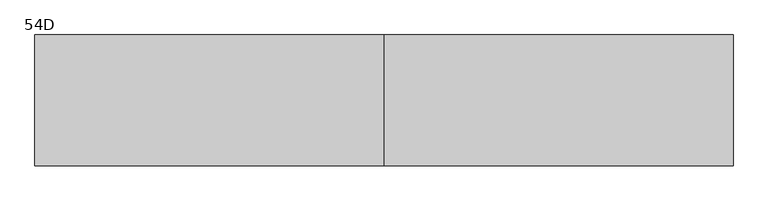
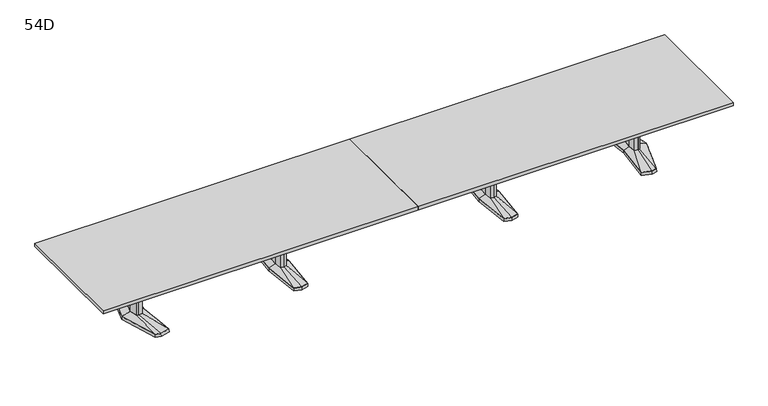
"""IFC4 building model written with IfcOpenShell, lengths in millimetres: furniture geometry, Coalesse_AM_Table_Conference_ETable2_Rectangular_24ft_AluminiumBase : 54D."""

import ifcopenshell
import ifcopenshell.guid

model = None  # the IFC model being written
_history = None  # IfcOwnerHistory: only IFC2X3 demands one
_inside = {}  # id of a spatial element -> (the spatial element, [elements in it])
_under = {}  # id of a project, library or spatial element -> (it, [spatial elements below it])
_declared = {}  # id of a project -> (the project, [libraries it declares])
_typed = {}  # id of a type object -> (the type object, [elements of that type])
_made_of = {}  # id of a material, layer set ... -> (it, [elements and type objects made of it])


def new_model(schema):
    """Start an empty IFC model of exactly this schema.

    Asked for "IFC4X3", IfcOpenShell would pick the latest addendum, in which some entities
    have other attributes; the version numbers below select the first issue.
    IFC2X3 requires an IfcOwnerHistory on every rooted entity: one is made here for all.
    """
    global model, _history
    if schema == "IFC4X3":
        model = ifcopenshell.file(schema_version=(4, 3, 0, 0))
    else:
        model = ifcopenshell.file(schema=schema)
    _inside.clear()
    _under.clear()
    _declared.clear()
    _typed.clear()
    _made_of.clear()
    _history = None
    if model.schema == "IFC2X3":
        org = make("IfcOrganization", Name="unknown")
        user = make(
            "IfcPersonAndOrganization",
            ThePerson=make("IfcPerson", FamilyName="unknown"),
            TheOrganization=org,
        )
        app = make(
            "IfcApplication",
            ApplicationDeveloper=org,
            Version="unknown",
            ApplicationFullName="unknown",
            ApplicationIdentifier="unknown",
        )
        _history = make(
            "IfcOwnerHistory",
            OwningUser=user,
            OwningApplication=app,
            ChangeAction="ADDED",
            CreationDate=0,
        )
    return model


def make(cls, **values):
    """One entity of the class cls with the attributes given. An attribute that is None is left unset."""
    return model.create_entity(
        cls, **{name: value for name, value in values.items() if value is not None}
    )


def rooted(cls, **values):
    """An entity with a GlobalId (a new one), such as an element, a storey or a relation."""
    return make(cls, GlobalId=ifcopenshell.guid.new(), OwnerHistory=_history, **values)


def si_unit(unit_type, name, prefix=None):
    """IfcSIUnit, for example si_unit("LENGTHUNIT", "METRE", prefix="MILLI")."""
    return make("IfcSIUnit", UnitType=unit_type, Prefix=prefix, Name=name)


def assignment(units):
    """IfcUnitAssignment: the units of a project."""
    return None if units is None else make("IfcUnitAssignment", Units=units)


def point(xyz):
    """IfcCartesianPoint."""
    return None if xyz is None else make("IfcCartesianPoint", Coordinates=xyz)


def direction(xyz):
    """IfcDirection."""
    return None if xyz is None else make("IfcDirection", DirectionRatios=xyz)


def frame(location, z_axis=None, x_axis=None):
    """IfcAxis2Placement3D, a coordinate frame: its origin and axes. An axis left out is left unset."""
    return make(
        "IfcAxis2Placement3D",
        Location=point(location),
        Axis=direction(z_axis),
        RefDirection=direction(x_axis),
    )


def origin():
    """The frame at (0, 0, 0) with its axes left unset."""
    return frame((0.0, 0.0, 0.0))


def place(relative_to, where):
    """IfcLocalPlacement: puts the frame where relative to a parent placement (None: the world)."""
    return make(
        "IfcLocalPlacement", PlacementRelTo=relative_to, RelativePlacement=where
    )


def context(
    kind, dimensions, precision=None, world=None, true_north=None, identifier=None
):
    """IfcGeometricRepresentationContext, for example the 3D "Model" context."""
    return make(
        "IfcGeometricRepresentationContext",
        ContextIdentifier=identifier,
        ContextType=kind,
        CoordinateSpaceDimension=dimensions,
        Precision=precision,
        WorldCoordinateSystem=world,
        TrueNorth=true_north,
    )


def project(units=None, contexts=None):
    """IfcProject with its units and contexts."""
    return rooted(
        "IfcProject",
        Name="project",
        RepresentationContexts=contexts,
        UnitsInContext=assignment(units),
    )


def spatial(cls, under=None, at=None, **own):
    """A site, building, storey or space (cls), placed at a placement, below another one or the project."""
    s = rooted(cls, ObjectPlacement=at, **own)
    if under is not None:
        _under.setdefault(under.id(), (under, []))[1].append(s)
    return s


def polyline(points):
    """IfcPolyline through the points."""
    return make("IfcPolyline", Points=[point(p) for p in points])


def outline(outer, holes=None, kind="AREA"):
    """IfcArbitraryClosedProfileDef: a profile drawn as a closed curve; with holes, ...WithVoids."""
    if holes is None:
        return make("IfcArbitraryClosedProfileDef", ProfileType=kind, OuterCurve=outer)
    return make(
        "IfcArbitraryProfileDefWithVoids",
        ProfileType=kind,
        OuterCurve=outer,
        InnerCurves=holes,
    )


def extrude(swept, where, along, depth):
    """IfcExtrudedAreaSolid: the profile swept, set in the frame where, extruded along a direction by depth."""
    return make(
        "IfcExtrudedAreaSolid",
        SweptArea=swept,
        Position=where,
        ExtrudedDirection=direction(along),
        Depth=depth,
    )


def faces_of(points, faces, orient=None, outer=None):
    """IfcFace entities. A face is a list of loops; a loop is a list of indices into points, from 0.

    orient and outer hold one flag for each loop. By default every Orientation is true, the
    first loop of a face is its IfcFaceOuterBound and the others are IfcFaceBound.
    """
    made = []
    for i, loops in enumerate(faces):
        bounds = []
        for j, loop in enumerate(loops):
            is_outer = j == 0 if outer is None else outer[i][j]
            bounds.append(
                make(
                    "IfcFaceOuterBound" if is_outer else "IfcFaceBound",
                    Bound=make("IfcPolyLoop", Polygon=[points[k] for k in loop]),
                    Orientation=True if orient is None else orient[i][j],
                )
            )
        made.append(make("IfcFace", Bounds=bounds))
    return made


def faceted_brep(points, faces, orient=None, outer=None, voids=None):
    """IfcFacetedBrep: a solid bounded by flat faces; with voids (closed shells), ...WithVoids."""
    shared = [point(p) for p in points]
    hull = make("IfcClosedShell", CfsFaces=faces_of(shared, faces, orient, outer))
    if voids is None:
        return make("IfcFacetedBrep", Outer=hull)
    return make(
        "IfcFacetedBrepWithVoids",
        Outer=hull,
        Voids=[
            make(cls, CfsFaces=faces_of(shared, fs, o, b)) for cls, fs, o, b in voids
        ],
    )


def shape(context_of_items, identifier, shape_type, items):
    """IfcShapeRepresentation: the items that make up one representation, for example the "Body"."""
    return make(
        "IfcShapeRepresentation",
        ContextOfItems=context_of_items,
        RepresentationIdentifier=identifier,
        RepresentationType=shape_type,
        Items=items,
    )


def source(mapping_origin, context_of_items, identifier, shape_type, items):
    """IfcRepresentationMap: a shape defined once, which mapped items show again and again."""
    return make(
        "IfcRepresentationMap",
        MappingOrigin=mapping_origin,
        MappedRepresentation=shape(context_of_items, identifier, shape_type, items),
    )


def transform(
    local_origin,
    x_axis=None,
    y_axis=None,
    z_axis=None,
    scale=None,
    scale2=None,
    scale3=None,
    uniform=True,
):
    """IfcCartesianTransformationOperator3D, or its non-uniform kind. x_axis, y_axis, z_axis: its Axis1, 2, 3."""
    if uniform:
        return make(
            "IfcCartesianTransformationOperator3D",
            Axis1=direction(x_axis),
            Axis2=direction(y_axis),
            LocalOrigin=point(local_origin),
            Scale=scale,
            Axis3=direction(z_axis),
        )
    return make(
        "IfcCartesianTransformationOperator3DnonUniform",
        Axis1=direction(x_axis),
        Axis2=direction(y_axis),
        LocalOrigin=point(local_origin),
        Scale=scale,
        Axis3=direction(z_axis),
        Scale2=scale2,
        Scale3=scale3,
    )


def mapped(mapping_source, mapping_target):
    """IfcMappedItem: shows the shape of a source again, moved by a transform."""
    return make(
        "IfcMappedItem", MappingSource=mapping_source, MappingTarget=mapping_target
    )


def made_of(thing, what):
    """Note that an element or type object is made of a material, layer set ...; save() writes the relation."""
    if what is not None:
        _made_of.setdefault(what.id(), (what, []))[1].append(thing)
    return thing


def element(
    cls,
    number,
    at=None,
    inside=None,
    cuts=None,
    type_object=None,
    material=None,
    context=None,
    identifier="Body",
    shape_type=None,
    held_by="IfcProductDefinitionShape",
    body=None,
    shapes=None,
    **own,
):
    """One element of the class cls, such as IfcWall. Its Tag is "e" and its number.

    at: its placement. inside: the storey or other place that contains it. cuts: it is an
    opening in that element (IfcRelVoidsElement). A single representation is given by context,
    identifier, shape_type and body (its items); several are given by shapes. held_by: the class
    of the entity that holds the representations. save() writes the other relations.
    """
    e = rooted(cls, Tag="e%d" % number, ObjectPlacement=at, **own)
    if body is not None:
        shapes = [shape(context, identifier, shape_type, body)]
    if shapes is not None:
        e.Representation = make(held_by, Representations=shapes)
    if inside is not None:
        _inside.setdefault(inside.id(), (inside, []))[1].append(e)
    if cuts is not None:
        rooted(
            "IfcRelVoidsElement", RelatingBuildingElement=cuts, RelatedOpeningElement=e
        )
    if type_object is not None:
        _typed.setdefault(type_object.id(), (type_object, []))[1].append(e)
    return made_of(e, material)


def aggregate(whole, parts):
    """IfcRelAggregates: a whole, such as a stair, and the parts it consists of."""
    return rooted("IfcRelAggregates", RelatingObject=whole, RelatedObjects=parts)


def save(model, path):
    """Write the relations noted so far, then the file.

    IfcRelAggregates (storeys below a building ...), IfcRelContainedInSpatialStructure (elements
    in a storey), IfcRelDefinesByType, IfcRelAssociatesMaterial and IfcRelDeclares: one each for
    every whole, place, type object, material and project.
    """
    for whole, parts in _under.values():
        aggregate(whole, parts)
    for where, things in _inside.values():
        rooted(
            "IfcRelContainedInSpatialStructure",
            RelatedElements=things,
            RelatingStructure=where,
        )
    for kind, things in _typed.values():
        rooted("IfcRelDefinesByType", RelatedObjects=things, RelatingType=kind)
    for what, things in _made_of.values():
        rooted("IfcRelAssociatesMaterial", RelatedObjects=things, RelatingMaterial=what)
    for by, libraries in _declared.values():
        rooted("IfcRelDeclares", RelatingContext=by, RelatedDefinitions=libraries)
    model.write(path)


def plane_surface(at):
    """IfcPlane: the flat surface through the origin of the frame at, square to its z axis."""
    return make("IfcPlane", Position=at)


def spline_surface(u_degree, v_degree, points, u_multiplicities, v_multiplicities, u_knots, v_knots, weights=None):
    """IfcBSplineSurfaceWithKnots; with weights, IfcRationalBSplineSurfaceWithKnots. points: one row for each step in u."""
    own = dict(
        UDegree=u_degree,
        VDegree=v_degree,
        ControlPointsList=[[point(p) for p in row] for row in points],
        SurfaceForm="UNSPECIFIED",
        UClosed=False,
        VClosed=False,
        SelfIntersect=False,
        UMultiplicities=u_multiplicities,
        VMultiplicities=v_multiplicities,
        UKnots=u_knots,
        VKnots=v_knots,
        KnotSpec="UNSPECIFIED",
    )
    if weights is None:
        return make("IfcBSplineSurfaceWithKnots", **own)
    return make("IfcRationalBSplineSurfaceWithKnots", WeightsData=weights, **own)


def advanced_brep(points, edges, surfaces, faces):
    """IfcAdvancedBrep: a solid bounded by faces that lie on surfaces and meet in shared edges.

    An edge is (start, end): straight between two places in points (the first is 0);
    or (start, end, curve); or (start, end, curve, False) where it runs against its curve.
    A face is (place in surfaces, loops), or (place, loops, False) where it looks against
    its surface's normal. A loop lists edges by number (the first is 1), with a minus sign
    where the edge is run from its end to its start. The first loop is the outer one.
    """
    corners = [point(p) for p in points]
    vertices = [make("IfcVertexPoint", VertexGeometry=c) for c in corners]
    made = []
    for start, end, *more in edges:
        made.append(
            make(
                "IfcEdgeCurve",
                EdgeStart=vertices[start],
                EdgeEnd=vertices[end],
                EdgeGeometry=more[0] if more else make("IfcPolyline", Points=[corners[start], corners[end]]),
                SameSense=more[1] if len(more) > 1 else True,
            )
        )
    hull = []
    for where, loops, *sense in faces:
        bounds = []
        for j, loop in enumerate(loops):
            ring = [make("IfcOrientedEdge", EdgeElement=made[abs(k) - 1], Orientation=k > 0) for k in loop]
            bounds.append(
                make(
                    "IfcFaceOuterBound" if j == 0 else "IfcFaceBound",
                    Bound=make("IfcEdgeLoop", EdgeList=ring),
                    Orientation=True,
                )
            )
        hull.append(make("IfcAdvancedFace", Bounds=bounds, FaceSurface=surfaces[where], SameSense=sense[0] if sense else True))
    return make("IfcAdvancedBrep", Outer=make("IfcClosedShell", CfsFaces=hull))


def furniture_54d_3a0905d3(model_context):
    return source(origin(), model_context, "Body", "SolidModel", [
        faceted_brep([(1137.9666209, -433.8053819, 38.1), (1219.2, -455.556576, 38.1), (1300.4333791, -433.8053819, 38.1), (1338.2564774, 0.0, 38.1), (1300.4333791, 433.8053819, 38.1), (1219.2, 455.556576, 38.1), (1137.9666209, 433.8053819, 38.1), (1100.1435226, 0.0, 38.1), (1136.4817205, -435.0512063, 3.175), (1098.55, 0.0, 3.175), (1136.4817205, 435.0512063, 3.175), (1219.2, 457.2, 3.175), (1301.9182795, 435.0512063, 3.175), (1339.85, 0.0, 3.175), (1301.9182795, -435.0512063, 3.175), (1219.2, -457.2, 3.175), (1219.2, 429.2617927, 3.175), (1141.2323194, 408.3850278, 3.175), (1144.4980179, 382.9646737, 3.175), (1219.2, 402.9670094, 3.175), (1293.9019821, 382.9646737, 3.175), (1297.1676806, 408.3850278, 3.175), (1219.2, -429.2617927, 3.175), (1297.1676806, -408.3850278, 3.175), (1293.9019821, -382.9646737, 3.175), (1219.2, -402.9670094, 3.175), (1144.4980179, -382.9646737, 3.175), (1141.2323194, -408.3850278, 3.175), (1147.3425738, 114.6326257, 3.175), (1136.6573924, 0.0, 3.175), (1147.3425738, -114.6326257, 3.175), (1219.2, -133.8761372, 3.175), (1291.0574262, -114.6326257, 3.175), (1301.7426076, 0.0, 3.175), (1291.0574262, 114.6326257, 3.175), (1219.2, 133.8761372, 3.175), (1219.2, 429.2617927, 0.0), (1297.1676806, 408.3850278, 0.0), (1293.9019821, 382.9646737, 0.0), (1219.2, 402.9670094, 0.0), (1144.4980179, 382.9646737, 0.0), (1141.2323194, 408.3850278, 0.0), (1219.2, -429.2617927, 0.0), (1141.2323194, -408.3850278, 0.0), (1144.4980179, -382.9646737, 0.0), (1219.2, -402.9670094, 0.0), (1293.9019821, -382.9646737, 0.0), (1297.1676806, -408.3850278, 0.0), (1147.3425738, 114.6326257, 0.0), (1219.2, 133.8761372, 0.0), (1291.0574262, 114.6326257, 0.0), (1301.7426076, 0.0, 0.0), (1291.0574262, -114.6326257, 0.0), (1219.2, -133.8761372, 0.0), (1147.3425738, -114.6326257, 0.0), (1136.6573924, 0.0, 0.0)], [[[0, 1, 2, 3, 4, 5, 6, 7]], [[8, 9, 10, 11, 12, 13, 14, 15], [16, 17, 18, 19, 20, 21], [22, 23, 24, 25, 26, 27], [28, 29, 30, 31, 32, 33, 34, 35]], [[1, 0, 8, 15]], [[2, 1, 15, 14]], [[3, 2, 14, 13]], [[4, 3, 13, 12]], [[5, 4, 12, 11]], [[6, 5, 11, 10]], [[7, 6, 10, 9]], [[0, 7, 9, 8]], [[36, 37, 38, 39, 40, 41]], [[42, 43, 44, 45, 46, 47]], [[48, 49, 50, 51, 52, 53, 54, 55]], [[36, 41, 17, 16]], [[41, 40, 18, 17]], [[40, 39, 19, 18]], [[39, 38, 20, 19]], [[38, 37, 21, 20]], [[37, 36, 16, 21]], [[42, 47, 23, 22]], [[47, 46, 24, 23]], [[46, 45, 25, 24]], [[45, 44, 26, 25]], [[44, 43, 27, 26]], [[43, 42, 22, 27]], [[48, 55, 29, 28]], [[55, 54, 30, 29]], [[54, 53, 31, 30]], [[53, 52, 32, 31]], [[52, 51, 33, 32]], [[51, 50, 34, 33]], [[50, 49, 35, 34]], [[49, 48, 28, 35]]]),
        faceted_brep([(1182.8167166, 84.6900825, 698.5), (1174.9225513, 0.0, 698.5), (1182.8167166, -84.6900825, 698.5), (1219.2, -94.4335728, 698.5), (1255.5832834, -84.6900825, 698.5), (1263.4774487, 0.0, 698.5), (1255.5832834, 84.6900825, 698.5), (1219.2, 94.4335728, 698.5), (1182.8167166, 84.6900825, 63.5), (1219.2, 94.4335728, 63.5), (1255.5832834, 84.6900825, 63.5), (1263.4774487, 0.0, 63.5), (1255.5832834, -84.6900825, 63.5), (1219.2, -94.4335728, 63.5), (1182.8167166, -84.6900825, 63.5), (1174.9225513, 0.0, 63.5)], [[[0, 1, 2, 3, 4, 5, 6, 7]], [[8, 9, 10, 11, 12, 13, 14, 15]], [[1, 0, 8, 15]], [[2, 1, 15, 14]], [[3, 2, 14, 13]], [[4, 3, 13, 12]], [[5, 4, 12, 11]], [[6, 5, 11, 10]], [[7, 6, 10, 9]], [[0, 7, 9, 8]]]),
        advanced_brep(
        [(1182.8167166, 84.6900825, 63.5), (1174.9225513, 0.0, 63.5), (1182.8167166, -84.6900825, 63.5), (1219.2, -94.4335728, 63.5), (1255.5832834, -84.6900825, 63.5), (1263.4774487, 0.0, 63.5), (1255.5832834, 84.6900825, 63.5), (1219.2, 94.4335728, 63.5), (1137.9666209, 433.8053819, 38.1), (1219.2, 455.556576, 38.1), (1300.4333791, 433.8053819, 38.1), (1338.2564774, 0.0, 38.1), (1300.4333791, -433.8053819, 38.1), (1219.2, -455.556576, 38.1), (1137.9666209, -433.8053819, 38.1), (1100.1435226, 0.0, 38.1)],
        [
            (0, 1),
            (1, 2),
            (2, 3),
            (3, 4),
            (4, 5),
            (5, 6),
            (6, 7),
            (7, 0),
            (8, 9),
            (9, 10),
            (10, 11),
            (11, 12),
            (12, 13),
            (13, 14),
            (14, 15),
            (15, 8),
            (15, 1),
            (0, 8),
            (14, 2),
            (13, 3),
            (12, 4),
            (11, 5),
            (10, 6),
            (9, 7),
        ],
        [
            plane_surface(frame((1219.2, 0.0, 63.5), z_axis=(0.0, 0.0, 1.0000000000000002), x_axis=(-0.9659615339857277, -0.25868574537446, 0.0))),
            plane_surface(frame((1219.2, 0.0, 38.1), z_axis=(0.0, 0.0, -1.0000000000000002), x_axis=(-0.9659615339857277, -0.25868574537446, 0.0))),
            spline_surface(1, 1, [[(1137.9666209, 433.8053819, 38.1), (1182.8167166, 84.6900825, 63.5)], [(1100.1435226, 0.0, 38.1), (1174.9225513, 0.0, 63.5)]], [2, 2], [2, 2], [0.0, 1.0], [0.0, 1.0]),
            spline_surface(1, 1, [[(1100.1435226, 0.0, 38.1), (1174.9225513, 0.0, 63.5)], [(1137.9666209, -433.8053819, 38.1), (1182.8167166, -84.6900825, 63.5)]], [2, 2], [2, 2], [0.0, 1.0], [0.0, 1.0]),
            spline_surface(1, 1, [[(1137.9666209, -433.8053819, 38.1), (1182.8167166, -84.6900825, 63.5)], [(1219.2, -455.556576, 38.1), (1219.2, -94.4335728, 63.5)]], [2, 2], [2, 2], [0.0, 1.0], [0.0, 1.0]),
            spline_surface(1, 1, [[(1219.2, -455.556576, 38.1), (1219.2, -94.4335728, 63.5)], [(1300.4333791, -433.8053819, 38.1), (1255.5832834, -84.6900825, 63.5)]], [2, 2], [2, 2], [0.0, 1.0], [0.0, 1.0]),
            spline_surface(1, 1, [[(1300.4333791, -433.8053819, 38.1), (1255.5832834, -84.6900825, 63.5)], [(1338.2564774, 0.0, 38.1), (1263.4774487, 0.0, 63.5)]], [2, 2], [2, 2], [0.0, 1.0], [0.0, 1.0]),
            spline_surface(1, 1, [[(1338.2564774, 0.0, 38.1), (1263.4774487, 0.0, 63.5)], [(1300.4333791, 433.8053819, 38.1), (1255.5832834, 84.6900825, 63.5)]], [2, 2], [2, 2], [0.0, 1.0], [0.0, 1.0]),
            spline_surface(1, 1, [[(1300.4333791, 433.8053819, 38.1), (1255.5832834, 84.6900825, 63.5)], [(1219.2, 455.556576, 38.1), (1219.2, 94.4335728, 63.5)]], [2, 2], [2, 2], [0.0, 1.0], [0.0, 1.0]),
            spline_surface(1, 1, [[(1219.2, 455.556576, 38.1), (1219.2, 94.4335728, 63.5)], [(1137.9666209, 433.8053819, 38.1), (1182.8167166, 84.6900825, 63.5)]], [2, 2], [2, 2], [0.0, 1.0], [0.0, 1.0]),
        ],
        [
            (0, [[1, 2, 3, 4, 5, 6, 7, 8]]),
            (1, [[9, 10, 11, 12, 13, 14, 15, 16]]),
            (2, [[-16, 17, -1, 18]]),
            (3, [[-15, 19, -2, -17]]),
            (4, [[-14, 20, -3, -19]]),
            (5, [[-13, 21, -4, -20]]),
            (6, [[-12, 22, -5, -21]]),
            (7, [[-11, 23, -6, -22]]),
            (8, [[-10, 24, -7, -23]]),
            (9, [[-9, -18, -8, -24]]),
        ],
    ),
        faceted_brep([(-1300.4333791, -433.8053819, 38.1), (-1219.2, -455.556576, 38.1), (-1137.9666209, -433.8053819, 38.1), (-1100.1435226, 0.0, 38.1), (-1137.9666209, 433.8053819, 38.1), (-1219.2, 455.556576, 38.1), (-1300.4333791, 433.8053819, 38.1), (-1338.2564774, 0.0, 38.1), (-1301.9182795, -435.0512063, 3.175), (-1339.85, 0.0, 3.175), (-1301.9182795, 435.0512063, 3.175), (-1219.2, 457.2, 3.175), (-1136.4817205, 435.0512063, 3.175), (-1098.55, 0.0, 3.175), (-1136.4817205, -435.0512063, 3.175), (-1219.2, -457.2, 3.175), (-1219.2, 429.2617927, 3.175), (-1297.1676806, 408.3850278, 3.175), (-1293.9019821, 382.9646737, 3.175), (-1219.2, 402.9670094, 3.175), (-1144.4980179, 382.9646737, 3.175), (-1141.2323194, 408.3850278, 3.175), (-1219.2, -429.2617927, 3.175), (-1141.2323194, -408.3850278, 3.175), (-1144.4980179, -382.9646737, 3.175), (-1219.2, -402.9670094, 3.175), (-1293.9019821, -382.9646737, 3.175), (-1297.1676806, -408.3850278, 3.175), (-1291.0574262, 114.6326257, 3.175), (-1301.7426076, 0.0, 3.175), (-1291.0574262, -114.6326257, 3.175), (-1219.2, -133.8761372, 3.175), (-1147.3425738, -114.6326257, 3.175), (-1136.6573924, 0.0, 3.175), (-1147.3425738, 114.6326257, 3.175), (-1219.2, 133.8761372, 3.175), (-1219.2, 429.2617927, 0.0), (-1141.2323194, 408.3850278, 0.0), (-1144.4980179, 382.9646737, 0.0), (-1219.2, 402.9670094, 0.0), (-1293.9019821, 382.9646737, 0.0), (-1297.1676806, 408.3850278, 0.0), (-1219.2, -429.2617927, 0.0), (-1297.1676806, -408.3850278, 0.0), (-1293.9019821, -382.9646737, 0.0), (-1219.2, -402.9670094, 0.0), (-1144.4980179, -382.9646737, 0.0), (-1141.2323194, -408.3850278, 0.0), (-1291.0574262, 114.6326257, 0.0), (-1219.2, 133.8761372, 0.0), (-1147.3425738, 114.6326257, 0.0), (-1136.6573924, 0.0, 0.0), (-1147.3425738, -114.6326257, 0.0), (-1219.2, -133.8761372, 0.0), (-1291.0574262, -114.6326257, 0.0), (-1301.7426076, 0.0, 0.0)], [[[0, 1, 2, 3, 4, 5, 6, 7]], [[8, 9, 10, 11, 12, 13, 14, 15], [16, 17, 18, 19, 20, 21], [22, 23, 24, 25, 26, 27], [28, 29, 30, 31, 32, 33, 34, 35]], [[1, 0, 8, 15]], [[2, 1, 15, 14]], [[3, 2, 14, 13]], [[4, 3, 13, 12]], [[5, 4, 12, 11]], [[6, 5, 11, 10]], [[7, 6, 10, 9]], [[0, 7, 9, 8]], [[36, 37, 38, 39, 40, 41]], [[42, 43, 44, 45, 46, 47]], [[48, 49, 50, 51, 52, 53, 54, 55]], [[36, 41, 17, 16]], [[41, 40, 18, 17]], [[40, 39, 19, 18]], [[39, 38, 20, 19]], [[38, 37, 21, 20]], [[37, 36, 16, 21]], [[42, 47, 23, 22]], [[47, 46, 24, 23]], [[46, 45, 25, 24]], [[45, 44, 26, 25]], [[44, 43, 27, 26]], [[43, 42, 22, 27]], [[48, 55, 29, 28]], [[55, 54, 30, 29]], [[54, 53, 31, 30]], [[53, 52, 32, 31]], [[52, 51, 33, 32]], [[51, 50, 34, 33]], [[50, 49, 35, 34]], [[49, 48, 28, 35]]]),
        faceted_brep([(-1255.5832834, 84.6900825, 698.5), (-1263.4774487, 0.0, 698.5), (-1255.5832834, -84.6900825, 698.5), (-1219.2, -94.4335728, 698.5), (-1182.8167166, -84.6900825, 698.5), (-1174.9225513, 0.0, 698.5), (-1182.8167166, 84.6900825, 698.5), (-1219.2, 94.4335728, 698.5), (-1255.5832834, 84.6900825, 63.5), (-1219.2, 94.4335728, 63.5), (-1182.8167166, 84.6900825, 63.5), (-1174.9225513, 0.0, 63.5), (-1182.8167166, -84.6900825, 63.5), (-1219.2, -94.4335728, 63.5), (-1255.5832834, -84.6900825, 63.5), (-1263.4774487, 0.0, 63.5)], [[[0, 1, 2, 3, 4, 5, 6, 7]], [[8, 9, 10, 11, 12, 13, 14, 15]], [[1, 0, 8, 15]], [[2, 1, 15, 14]], [[3, 2, 14, 13]], [[4, 3, 13, 12]], [[5, 4, 12, 11]], [[6, 5, 11, 10]], [[7, 6, 10, 9]], [[0, 7, 9, 8]]]),
        advanced_brep(
        [(-1255.5832834, 84.6900825, 63.5), (-1263.4774487, 0.0, 63.5), (-1255.5832834, -84.6900825, 63.5), (-1219.2, -94.4335728, 63.5), (-1182.8167166, -84.6900825, 63.5), (-1174.9225513, 0.0, 63.5), (-1182.8167166, 84.6900825, 63.5), (-1219.2, 94.4335728, 63.5), (-1300.4333791, 433.8053819, 38.1), (-1219.2, 455.556576, 38.1), (-1137.9666209, 433.8053819, 38.1), (-1100.1435226, 0.0, 38.1), (-1137.9666209, -433.8053819, 38.1), (-1219.2, -455.556576, 38.1), (-1300.4333791, -433.8053819, 38.1), (-1338.2564774, 0.0, 38.1)],
        [
            (0, 1),
            (1, 2),
            (2, 3),
            (3, 4),
            (4, 5),
            (5, 6),
            (6, 7),
            (7, 0),
            (8, 9),
            (9, 10),
            (10, 11),
            (11, 12),
            (12, 13),
            (13, 14),
            (14, 15),
            (15, 8),
            (15, 1),
            (0, 8),
            (14, 2),
            (13, 3),
            (12, 4),
            (11, 5),
            (10, 6),
            (9, 7),
        ],
        [
            plane_surface(frame((-1219.2, 0.0, 63.5), z_axis=(0.0, 0.0, 1.0000000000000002), x_axis=(-0.9659615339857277, -0.25868574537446, 0.0))),
            plane_surface(frame((-1219.2, 0.0, 38.1), z_axis=(0.0, 0.0, -1.0000000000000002), x_axis=(-0.9659615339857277, -0.25868574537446, 0.0))),
            spline_surface(1, 1, [[(-1300.4333791, 433.8053819, 38.1), (-1255.5832834, 84.6900825, 63.5)], [(-1338.2564774, 0.0, 38.1), (-1263.4774487, 0.0, 63.5)]], [2, 2], [2, 2], [0.0, 1.0], [0.0, 1.0]),
            spline_surface(1, 1, [[(-1338.2564774, 0.0, 38.1), (-1263.4774487, 0.0, 63.5)], [(-1300.4333791, -433.8053819, 38.1), (-1255.5832834, -84.6900825, 63.5)]], [2, 2], [2, 2], [0.0, 1.0], [0.0, 1.0]),
            spline_surface(1, 1, [[(-1300.4333791, -433.8053819, 38.1), (-1255.5832834, -84.6900825, 63.5)], [(-1219.2, -455.556576, 38.1), (-1219.2, -94.4335728, 63.5)]], [2, 2], [2, 2], [0.0, 1.0], [0.0, 1.0]),
            spline_surface(1, 1, [[(-1219.2, -455.556576, 38.1), (-1219.2, -94.4335728, 63.5)], [(-1137.9666209, -433.8053819, 38.1), (-1182.8167166, -84.6900825, 63.5)]], [2, 2], [2, 2], [0.0, 1.0], [0.0, 1.0]),
            spline_surface(1, 1, [[(-1137.9666209, -433.8053819, 38.1), (-1182.8167166, -84.6900825, 63.5)], [(-1100.1435226, 0.0, 38.1), (-1174.9225513, 0.0, 63.5)]], [2, 2], [2, 2], [0.0, 1.0], [0.0, 1.0]),
            spline_surface(1, 1, [[(-1100.1435226, 0.0, 38.1), (-1174.9225513, 0.0, 63.5)], [(-1137.9666209, 433.8053819, 38.1), (-1182.8167166, 84.6900825, 63.5)]], [2, 2], [2, 2], [0.0, 1.0], [0.0, 1.0]),
            spline_surface(1, 1, [[(-1137.9666209, 433.8053819, 38.1), (-1182.8167166, 84.6900825, 63.5)], [(-1219.2, 455.556576, 38.1), (-1219.2, 94.4335728, 63.5)]], [2, 2], [2, 2], [0.0, 1.0], [0.0, 1.0]),
            spline_surface(1, 1, [[(-1219.2, 455.556576, 38.1), (-1219.2, 94.4335728, 63.5)], [(-1300.4333791, 433.8053819, 38.1), (-1255.5832834, 84.6900825, 63.5)]], [2, 2], [2, 2], [0.0, 1.0], [0.0, 1.0]),
        ],
        [
            (0, [[1, 2, 3, 4, 5, 6, 7, 8]]),
            (1, [[9, 10, 11, 12, 13, 14, 15, 16]]),
            (2, [[-16, 17, -1, 18]]),
            (3, [[-15, 19, -2, -17]]),
            (4, [[-14, 20, -3, -19]]),
            (5, [[-13, 21, -4, -20]]),
            (6, [[-12, 22, -5, -21]]),
            (7, [[-11, 23, -6, -22]]),
            (8, [[-10, 24, -7, -23]]),
            (9, [[-9, -18, -8, -24]]),
        ],
    ),
        faceted_brep([(2852.8994335, 455.5848221, 38.1), (2743.3218777, 426.2263816, 38.1), (2784.4851217, 0.0, 38.1), (2743.3218777, -426.2263816, 38.1), (2852.8994335, -455.5848221, 38.1), (2909.0257896, -440.5478297, 38.1), (3046.3371769, 0.0, 38.1), (2909.0257896, 440.5478297, 38.1), (2852.8994254, 457.2283104, 3.175), (2910.2811972, 441.8549756, 3.175), (3048.0, 0.0, 3.175), (2910.2811972, -441.8549756, 3.175), (2852.8994254, -457.2283104, 3.175), (2741.6125, -427.4118891, 3.175), (2782.8902356, 0.0, 3.175), (2741.6125, 427.4118891, 3.175), (2856.488865, 428.3273875, 3.175), (2751.4405728, 402.1057253, 3.175), (2759.559268, 377.985069, 3.175), (2860.0782966, 401.0699529, 3.175), (2910.6379225, 387.524361, 3.175), (2909.8318561, 414.0360954, 3.175), (2856.488865, -428.3273875, 3.175), (2909.8318561, -414.0360954, 3.175), (2910.6379225, -387.524361, 3.175), (2860.0782966, -401.0699529, 3.175), (2759.559268, -377.985069, 3.175), (2751.4405728, -402.1057253, 3.175), (2983.0841121, 0.0, 3.175), (2950.8147111, 120.4193755, 3.175), (2902.1674722, 133.471665, 3.175), (2822.2868026, 119.4176561, 3.175), (2811.1555966, 0.0, 3.175), (2822.2868026, -119.4176561, 3.175), (2902.1674722, -133.471665, 3.175), (2950.8147111, -120.4193755, 3.175), (2856.488865, 428.3273875, 0.0), (2909.8318561, 414.0360954, 0.0), (2910.6379225, 387.524361, 0.0), (2860.0782966, 401.0699529, 0.0), (2759.559268, 377.985069, 0.0), (2751.4405728, 402.1057253, 0.0), (2856.488865, -428.3273875, 0.0), (2751.4405728, -402.1057253, 0.0), (2759.559268, -377.985069, 0.0), (2860.0782966, -401.0699529, 0.0), (2910.6379225, -387.524361, 0.0), (2909.8318561, -414.0360954, 0.0), (2983.0841121, 0.0, 0.0), (2950.8147111, -120.4193755, 0.0), (2902.1674722, -133.471665, 0.0), (2822.2868026, -119.4176561, 0.0), (2811.1555966, 0.0, 0.0), (2822.2868026, 119.4176561, 0.0), (2902.1674722, 133.471665, 0.0), (2950.8147111, 120.4193755, 0.0)], [[[0, 1, 2, 3, 4, 5, 6, 7]], [[8, 9, 10, 11, 12, 13, 14, 15], [16, 17, 18, 19, 20, 21], [22, 23, 24, 25, 26, 27], [28, 29, 30, 31, 32, 33, 34, 35]], [[7, 9, 8, 0]], [[6, 10, 9, 7]], [[5, 11, 10, 6]], [[4, 12, 11, 5]], [[3, 13, 12, 4]], [[2, 14, 13, 3]], [[1, 15, 14, 2]], [[0, 8, 15, 1]], [[36, 37, 38, 39, 40, 41]], [[42, 43, 44, 45, 46, 47]], [[48, 49, 50, 51, 52, 53, 54, 55]], [[36, 16, 21, 37]], [[37, 21, 20, 38]], [[38, 20, 19, 39]], [[39, 19, 18, 40]], [[40, 18, 17, 41]], [[41, 17, 16, 36]], [[42, 22, 27, 43]], [[43, 27, 26, 44]], [[44, 26, 25, 45]], [[45, 25, 24, 46]], [[46, 24, 23, 47]], [[47, 23, 22, 42]], [[48, 28, 35, 49]], [[49, 35, 34, 50]], [[50, 34, 33, 51]], [[51, 33, 32, 52]], [[52, 32, 31, 53]], [[53, 31, 30, 54]], [[54, 30, 29, 55]], [[55, 29, 28, 48]]]),
        faceted_brep([(2943.6398336, 0.0, 698.5), (2919.7046046, 89.3188359, 698.5), (2902.8512484, 93.8406728, 698.5), (2900.4514011, 94.4845635, 698.5), (2857.523896, 86.9320037, 698.5), (2849.4207556, 0.0, 698.5), (2857.523896, -86.9320037, 698.5), (2900.4514011, -94.4845635, 698.5), (2902.8512484, -93.8406728, 698.5), (2919.7046046, -89.3188359, 698.5), (2943.6398336, 0.0, 63.5), (2919.7046046, -89.3188359, 63.5), (2902.8512484, -93.8406728, 63.5), (2900.4514011, -94.4845635, 63.5), (2857.523896, -86.9320037, 63.5), (2849.4207556, 0.0, 63.5), (2857.523896, 86.9320037, 63.5), (2900.4514011, 94.4845635, 63.5), (2902.8512484, 93.8406728, 63.5), (2919.7046046, 89.3188359, 63.5)], [[[0, 1, 2, 3, 4, 5, 6, 7, 8, 9]], [[10, 11, 12, 13, 14, 15, 16, 17, 18, 19]], [[9, 11, 10, 0]], [[8, 12, 11, 9]], [[7, 13, 12, 8]], [[6, 14, 13, 7]], [[5, 15, 14, 6]], [[4, 16, 15, 5]], [[3, 17, 16, 4]], [[2, 18, 17, 3]], [[1, 19, 18, 2]], [[0, 10, 19, 1]]]),
        advanced_brep(
        [(2900.4514011, 94.4845635, 63.5), (2857.523896, 86.9320037, 63.5), (2849.4207556, 0.0, 63.5), (2857.523896, -86.9320037, 63.5), (2900.4514011, -94.4845635, 63.5), (2919.7046046, -89.3188359, 63.5), (2943.6398336, 0.0, 63.5), (2919.7046046, 89.3188359, 63.5), (2852.8994335, 455.5848221, 38.1), (2909.0257896, 440.5478297, 38.1), (3046.3371769, 0.0, 38.1), (2909.0257896, -440.5478297, 38.1), (2852.8994335, -455.5848221, 38.1), (2743.3218777, -426.2263816, 38.1), (2784.4851217, 0.0, 38.1), (2743.3218777, 426.2263816, 38.1)],
        [
            (0, 1),
            (1, 2),
            (2, 3),
            (3, 4),
            (4, 5),
            (5, 6),
            (6, 7),
            (7, 0),
            (8, 9),
            (9, 10),
            (10, 11),
            (11, 12),
            (12, 13),
            (13, 14),
            (14, 15),
            (15, 8),
            (8, 0),
            (7, 9),
            (6, 10),
            (5, 11),
            (4, 12),
            (3, 13),
            (2, 14),
            (1, 15),
        ],
        [
            plane_surface(frame((2893.5525491, 0.0, 63.5), z_axis=(0.0, 0.0, 1.0), x_axis=(-0.25884244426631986, -0.9659195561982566, 0.0))),
            plane_surface(frame((2855.1645625, 0.0, 38.1), z_axis=(0.0, 0.0, -1.0), x_axis=(-0.25884244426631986, -0.9659195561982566, 0.0))),
            spline_surface(1, 1, [[(2852.8994335, 455.5848221, 38.1), (2909.0257896, 440.5478297, 38.1)], [(2900.4514011, 94.4845635, 63.5), (2919.7046046, 89.3188359, 63.5)]], [2, 2], [2, 2], [0.0, 1.0], [0.0, 1.0]),
            spline_surface(1, 1, [[(2909.0257896, 440.5478297, 38.1), (3046.3371769, 0.0, 38.1)], [(2919.7046046, 89.3188359, 63.5), (2943.6398336, 0.0, 63.5)]], [2, 2], [2, 2], [0.0, 1.0], [0.0, 1.0]),
            spline_surface(1, 1, [[(3046.3371769, 0.0, 38.1), (2909.0257896, -440.5478297, 38.1)], [(2943.6398336, 0.0, 63.5), (2919.7046046, -89.3188359, 63.5)]], [2, 2], [2, 2], [0.0, 1.0], [0.0, 1.0]),
            spline_surface(1, 1, [[(2909.0257896, -440.5478297, 38.1), (2852.8994335, -455.5848221, 38.1)], [(2919.7046046, -89.3188359, 63.5), (2900.4514011, -94.4845635, 63.5)]], [2, 2], [2, 2], [0.0, 1.0], [0.0, 1.0]),
            spline_surface(1, 1, [[(2852.8994335, -455.5848221, 38.1), (2743.3218777, -426.2263816, 38.1)], [(2900.4514011, -94.4845635, 63.5), (2857.523896, -86.9320037, 63.5)]], [2, 2], [2, 2], [0.0, 1.0], [0.0, 1.0]),
            spline_surface(1, 1, [[(2743.3218777, -426.2263816, 38.1), (2784.4851217, 0.0, 38.1)], [(2857.523896, -86.9320037, 63.5), (2849.4207556, 0.0, 63.5)]], [2, 2], [2, 2], [0.0, 1.0], [0.0, 1.0]),
            spline_surface(1, 1, [[(2784.4851217, 0.0, 38.1), (2743.3218777, 426.2263816, 38.1)], [(2849.4207556, 0.0, 63.5), (2857.523896, 86.9320037, 63.5)]], [2, 2], [2, 2], [0.0, 1.0], [0.0, 1.0]),
            spline_surface(1, 1, [[(2743.3218777, 426.2263816, 38.1), (2852.8994335, 455.5848221, 38.1)], [(2857.523896, 86.9320037, 63.5), (2900.4514011, 94.4845635, 63.5)]], [2, 2], [2, 2], [0.0, 1.0], [0.0, 1.0]),
        ],
        [
            (0, [[1, 2, 3, 4, 5, 6, 7, 8]]),
            (1, [[9, 10, 11, 12, 13, 14, 15, 16]]),
            (2, [[17, -8, 18, -9]]),
            (3, [[-18, -7, 19, -10]]),
            (4, [[-19, -6, 20, -11]]),
            (5, [[-20, -5, 21, -12]]),
            (6, [[-21, -4, 22, -13]]),
            (7, [[-22, -3, 23, -14]]),
            (8, [[-23, -2, 24, -15]]),
            (9, [[-24, -1, -17, -16]]),
        ],
    ),
        faceted_brep([(-2852.8994335, 455.5848221, 38.1), (-2909.0257896, 440.5478297, 38.1), (-3046.3371769, 0.0, 38.1), (-2909.0257896, -440.5478297, 38.1), (-2852.8994335, -455.5848221, 38.1), (-2743.3218777, -426.2263816, 38.1), (-2784.4851217, 0.0, 38.1), (-2743.3218777, 426.2263816, 38.1), (-2852.8994254, 457.2283104, 3.175), (-2741.6125, 427.4118891, 3.175), (-2782.8902356, 0.0, 3.175), (-2741.6125, -427.4118891, 3.175), (-2852.8994254, -457.2283104, 3.175), (-2910.2811972, -441.8549756, 3.175), (-3048.0, 0.0, 3.175), (-2910.2811972, 441.8549756, 3.175), (-2856.488865, 428.3273875, 3.175), (-2909.8318561, 414.0360954, 3.175), (-2910.6379225, 387.524361, 3.175), (-2860.0782966, 401.0699529, 3.175), (-2759.559268, 377.985069, 3.175), (-2751.4405728, 402.1057253, 3.175), (-2856.488865, -428.3273875, 3.175), (-2751.4405728, -402.1057253, 3.175), (-2759.559268, -377.985069, 3.175), (-2860.0782966, -401.0699529, 3.175), (-2910.6379225, -387.524361, 3.175), (-2909.8318561, -414.0360954, 3.175), (-2983.0841121, 0.0, 3.175), (-2950.8147111, -120.4193755, 3.175), (-2902.1674722, -133.471665, 3.175), (-2822.2868026, -119.4176561, 3.175), (-2811.1555966, 0.0, 3.175), (-2822.2868026, 119.4176561, 3.175), (-2902.1674722, 133.471665, 3.175), (-2950.8147111, 120.4193755, 3.175), (-2856.488865, 428.3273875, 0.0), (-2751.4405728, 402.1057253, 0.0), (-2759.559268, 377.985069, 0.0), (-2860.0782966, 401.0699529, 0.0), (-2910.6379225, 387.524361, 0.0), (-2909.8318561, 414.0360954, 0.0), (-2856.488865, -428.3273875, 0.0), (-2909.8318561, -414.0360954, 0.0), (-2910.6379225, -387.524361, 0.0), (-2860.0782966, -401.0699529, 0.0), (-2759.559268, -377.985069, 0.0), (-2751.4405728, -402.1057253, 0.0), (-2983.0841121, 0.0, 0.0), (-2950.8147111, 120.4193755, 0.0), (-2902.1674722, 133.471665, 0.0), (-2822.2868026, 119.4176561, 0.0), (-2811.1555966, 0.0, 0.0), (-2822.2868026, -119.4176561, 0.0), (-2902.1674722, -133.471665, 0.0), (-2950.8147111, -120.4193755, 0.0)], [[[0, 1, 2, 3, 4, 5, 6, 7]], [[8, 9, 10, 11, 12, 13, 14, 15], [16, 17, 18, 19, 20, 21], [22, 23, 24, 25, 26, 27], [28, 29, 30, 31, 32, 33, 34, 35]], [[1, 0, 8, 15]], [[2, 1, 15, 14]], [[3, 2, 14, 13]], [[4, 3, 13, 12]], [[5, 4, 12, 11]], [[6, 5, 11, 10]], [[7, 6, 10, 9]], [[0, 7, 9, 8]], [[36, 37, 38, 39, 40, 41]], [[42, 43, 44, 45, 46, 47]], [[48, 49, 50, 51, 52, 53, 54, 55]], [[36, 41, 17, 16]], [[41, 40, 18, 17]], [[40, 39, 19, 18]], [[39, 38, 20, 19]], [[38, 37, 21, 20]], [[37, 36, 16, 21]], [[42, 47, 23, 22]], [[47, 46, 24, 23]], [[46, 45, 25, 24]], [[45, 44, 26, 25]], [[44, 43, 27, 26]], [[43, 42, 22, 27]], [[48, 55, 29, 28]], [[55, 54, 30, 29]], [[54, 53, 31, 30]], [[53, 52, 32, 31]], [[52, 51, 33, 32]], [[51, 50, 34, 33]], [[50, 49, 35, 34]], [[49, 48, 28, 35]]]),
        faceted_brep([(-2943.6398336, 0.0, 698.5), (-2919.7046046, -89.3188359, 698.5), (-2902.8512484, -93.8406728, 698.5), (-2900.4514011, -94.4845635, 698.5), (-2857.523896, -86.9320037, 698.5), (-2849.4207556, 0.0, 698.5), (-2857.523896, 86.9320037, 698.5), (-2900.4514011, 94.4845635, 698.5), (-2902.8512484, 93.8406728, 698.5), (-2919.7046046, 89.3188359, 698.5), (-2943.6398336, 0.0, 63.5), (-2919.7046046, 89.3188359, 63.5), (-2902.8512484, 93.8406728, 63.5), (-2900.4514011, 94.4845635, 63.5), (-2857.523896, 86.9320037, 63.5), (-2849.4207556, 0.0, 63.5), (-2857.523896, -86.9320037, 63.5), (-2900.4514011, -94.4845635, 63.5), (-2902.8512484, -93.8406728, 63.5), (-2919.7046046, -89.3188359, 63.5)], [[[0, 1, 2, 3, 4, 5, 6, 7, 8, 9]], [[10, 11, 12, 13, 14, 15, 16, 17, 18, 19]], [[1, 0, 10, 19]], [[2, 1, 19, 18]], [[3, 2, 18, 17]], [[4, 3, 17, 16]], [[5, 4, 16, 15]], [[6, 5, 15, 14]], [[7, 6, 14, 13]], [[8, 7, 13, 12]], [[9, 8, 12, 11]], [[0, 9, 11, 10]]]),
        advanced_brep(
        [(-2900.4514011, 94.4845635, 63.5), (-2919.7046046, 89.3188359, 63.5), (-2943.6398336, 0.0, 63.5), (-2919.7046046, -89.3188359, 63.5), (-2900.4514011, -94.4845635, 63.5), (-2857.523896, -86.9320037, 63.5), (-2849.4207556, 0.0, 63.5), (-2857.523896, 86.9320037, 63.5), (-2852.8994335, 455.5848221, 38.1), (-2743.3218777, 426.2263816, 38.1), (-2784.4851217, 0.0, 38.1), (-2743.3218777, -426.2263816, 38.1), (-2852.8994335, -455.5848221, 38.1), (-2909.0257896, -440.5478297, 38.1), (-3046.3371769, 0.0, 38.1), (-2909.0257896, 440.5478297, 38.1)],
        [
            (0, 1),
            (1, 2),
            (2, 3),
            (3, 4),
            (4, 5),
            (5, 6),
            (6, 7),
            (7, 0),
            (8, 9),
            (9, 10),
            (10, 11),
            (11, 12),
            (12, 13),
            (13, 14),
            (14, 15),
            (15, 8),
            (15, 1),
            (0, 8),
            (14, 2),
            (13, 3),
            (12, 4),
            (11, 5),
            (10, 6),
            (9, 7),
        ],
        [
            plane_surface(frame((-2893.5525491, 0.0, 63.5), z_axis=(0.0, 0.0, 1.0), x_axis=(0.25884244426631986, -0.9659195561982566, 0.0))),
            plane_surface(frame((-2855.1645625, 0.0, 38.1), z_axis=(0.0, 0.0, -1.0), x_axis=(0.25884244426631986, -0.9659195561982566, 0.0))),
            spline_surface(1, 1, [[(-2852.8994335, 455.5848221, 38.1), (-2900.4514011, 94.4845635, 63.5)], [(-2909.0257896, 440.5478297, 38.1), (-2919.7046046, 89.3188359, 63.5)]], [2, 2], [2, 2], [0.0, 1.0], [0.0, 1.0]),
            spline_surface(1, 1, [[(-2909.0257896, 440.5478297, 38.1), (-2919.7046046, 89.3188359, 63.5)], [(-3046.3371769, 0.0, 38.1), (-2943.6398336, 0.0, 63.5)]], [2, 2], [2, 2], [0.0, 1.0], [0.0, 1.0]),
            spline_surface(1, 1, [[(-3046.3371769, 0.0, 38.1), (-2943.6398336, 0.0, 63.5)], [(-2909.0257896, -440.5478297, 38.1), (-2919.7046046, -89.3188359, 63.5)]], [2, 2], [2, 2], [0.0, 1.0], [0.0, 1.0]),
            spline_surface(1, 1, [[(-2909.0257896, -440.5478297, 38.1), (-2919.7046046, -89.3188359, 63.5)], [(-2852.8994335, -455.5848221, 38.1), (-2900.4514011, -94.4845635, 63.5)]], [2, 2], [2, 2], [0.0, 1.0], [0.0, 1.0]),
            spline_surface(1, 1, [[(-2852.8994335, -455.5848221, 38.1), (-2900.4514011, -94.4845635, 63.5)], [(-2743.3218777, -426.2263816, 38.1), (-2857.523896, -86.9320037, 63.5)]], [2, 2], [2, 2], [0.0, 1.0], [0.0, 1.0]),
            spline_surface(1, 1, [[(-2743.3218777, -426.2263816, 38.1), (-2857.523896, -86.9320037, 63.5)], [(-2784.4851217, 0.0, 38.1), (-2849.4207556, 0.0, 63.5)]], [2, 2], [2, 2], [0.0, 1.0], [0.0, 1.0]),
            spline_surface(1, 1, [[(-2784.4851217, 0.0, 38.1), (-2849.4207556, 0.0, 63.5)], [(-2743.3218777, 426.2263816, 38.1), (-2857.523896, 86.9320037, 63.5)]], [2, 2], [2, 2], [0.0, 1.0], [0.0, 1.0]),
            spline_surface(1, 1, [[(-2743.3218777, 426.2263816, 38.1), (-2857.523896, 86.9320037, 63.5)], [(-2852.8994335, 455.5848221, 38.1), (-2900.4514011, 94.4845635, 63.5)]], [2, 2], [2, 2], [0.0, 1.0], [0.0, 1.0]),
        ],
        [
            (0, [[1, 2, 3, 4, 5, 6, 7, 8]]),
            (1, [[9, 10, 11, 12, 13, 14, 15, 16]]),
            (2, [[-16, 17, -1, 18]]),
            (3, [[-15, 19, -2, -17]]),
            (4, [[-14, 20, -3, -19]]),
            (5, [[-13, 21, -4, -20]]),
            (6, [[-12, 22, -5, -21]]),
            (7, [[-11, 23, -6, -22]]),
            (8, [[-10, 24, -7, -23]]),
            (9, [[-9, -18, -8, -24]]),
        ],
    ),
        extrude(outline(polyline([(96.8375, 698.5), (103.1875, 698.5), (103.1875, 476.25), (-103.1875, 476.25), (-103.1875, 698.5), (-96.8375, 698.5), (-96.8375, 482.6), (96.8375, 482.6), (96.8375, 698.5)])), frame((1263.4774487, 0.0, 0.0), z_axis=(1.0, 0.0, 0.0), x_axis=(0.0, 1.0, 0.0)), (0.0, 0.0, 1.0), 1586.0850513),
        extrude(outline(polyline([(96.8375, 698.5), (103.1875, 698.5), (103.1875, 476.25), (-103.1875, 476.25), (-103.1875, 698.5), (-96.8375, 698.5), (-96.8375, 482.6), (96.8375, 482.6), (96.8375, 698.5)])), frame((-1174.9225513, 0.0, 0.0), z_axis=(1.0, 0.0, 0.0), x_axis=(0.0, 1.0, 0.0)), (0.0, 0.0, 1.0), 2349.8451026),
        extrude(outline(polyline([(3657.6, 685.8), (3657.6, -685.8), (0.0, -685.8), (0.0, 685.8), (3657.6, 685.8)])), frame((0.0, 0.0, 698.5), z_axis=(0.0, 0.0, 1.0), x_axis=(1.0, 0.0, 0.0)), (0.0, 0.0, 1.0), 38.1),
        extrude(outline(polyline([(0.0, 685.8), (0.0, -685.8), (-3657.6, -685.8), (-3657.6, 685.8), (0.0, 685.8)])), frame((0.0, 0.0, 698.5), z_axis=(0.0, 0.0, 1.0), x_axis=(1.0, 0.0, 0.0)), (0.0, 0.0, 1.0), 38.1),
        extrude(outline(polyline([(96.8375, 698.5), (103.1875, 698.5), (103.1875, 476.25), (-103.1875, 476.25), (-103.1875, 698.5), (-96.8375, 698.5), (-96.8375, 482.6), (96.8375, 482.6), (96.8375, 698.5)])), frame((-2849.5625, 0.0, 0.0), z_axis=(1.0, 0.0, 0.0), x_axis=(0.0, 1.0, 0.0)), (0.0, 0.0, 1.0), 1586.0850513),
    ])


if __name__ == "__main__":
    model = new_model("IFC4")
    model_context = context("Model", 3, world=origin())
    ifc_project = project(units=[si_unit("LENGTHUNIT", "METRE", prefix="MILLI")], contexts=[model_context])
    site = spatial("IfcSite", under=ifc_project)
    building = spatial("IfcBuilding", under=site)
    placement = place(None, origin())
    furniture_54d_shape = furniture_54d_3a0905d3(model_context)
    element("IfcFurniture", 1, ObjectType="Coalesse_AM_Table_Conference_ETable2_Rectangular_24ft_AluminiumBase : 54D", at=placement, inside=building, context=model_context, shape_type="MappedRepresentation", body=[
        mapped(furniture_54d_shape, transform((0.0, 0.0, 0.0), x_axis=(1.0, 0.0, 0.0), y_axis=(0.0, 1.0, 0.0), z_axis=(0.0, 0.0, 1.0))),
    ])
    save(model, "model.ifc")
